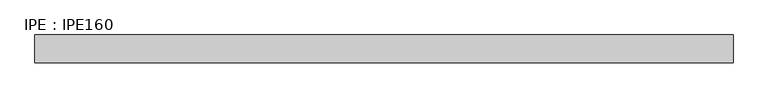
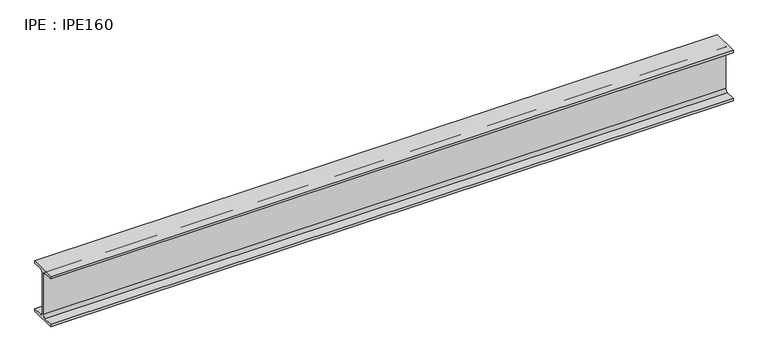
"""IFC4 building model written with IfcOpenShell, lengths in millimetres: beam geometry, IPE : IPE160."""

from ifc_helpers import new_model, si_unit, point, frame, frame_2d, origin, place, context, project, spatial, polyline, circle_curve, trimmed, segment, composite_curve, outline, extrude, source, transform, mapped, element, save


def ipe_ipe160_408854b2(model_context):
    return source(origin(), model_context, "Body", "SweptSolid", [
        extrude(outline(composite_curve([segment(polyline([(41.0, -72.6), (41.0, -80.0), (-41.0, -80.0), (-41.0, -72.6), (-11.5, -72.6)]), True, "CONTINUOUS"), segment(trimmed(circle_curve(frame_2d((-11.5, -63.6)), 9.0), [point((-11.5, -72.6))], [point((-2.5, -63.6))], True, "CARTESIAN"), True, "CONTINUOUS"), segment(polyline([(-2.5, -63.6), (-2.5, 63.6)]), True, "CONTINUOUS"), segment(trimmed(circle_curve(frame_2d((-11.5, 63.6)), 9.0), [point((-2.5, 63.6))], [point((-11.5, 72.6))], True, "CARTESIAN"), True, "CONTINUOUS"), segment(polyline([(-11.5, 72.6), (-41.0, 72.6), (-41.0, 80.0), (41.0, 80.0), (41.0, 72.6), (11.5, 72.6)]), True, "CONTINUOUS"), segment(trimmed(circle_curve(frame_2d((11.5, 63.6)), 9.0), [point((11.5, 72.6))], [point((2.5, 63.6))], True, "CARTESIAN"), True, "CONTINUOUS"), segment(polyline([(2.5, 63.6), (2.5, -63.6)]), True, "CONTINUOUS"), segment(trimmed(circle_curve(frame_2d((11.5, -63.6)), 9.0), [point((2.5, -63.6))], [point((11.5, -72.6))], True, "CARTESIAN"), True, "CONTINUOUS"), segment(polyline([(11.5, -72.6), (41.0, -72.6)]), True, "CONTINUOUS")], self_intersect=False)), frame((-992.05, 0.0, 0.0), z_axis=(1.0, 0.0, 0.0), x_axis=(0.0, 1.0, 0.0)), (0.0, 0.0, 1.0), 2059.2),
    ])


if __name__ == "__main__":
    model = new_model("IFC4")
    model_context = context("Model", 3, world=origin())
    ifc_project = project(units=[si_unit("LENGTHUNIT", "METRE", prefix="MILLI")], contexts=[model_context])
    site = spatial("IfcSite", under=ifc_project)
    building = spatial("IfcBuilding", under=site)
    placement = place(None, origin())
    ipe_ipe160_shape = ipe_ipe160_408854b2(model_context)
    element("IfcBeam", 1, ObjectType="IPE : IPE160", at=placement, inside=building, context=model_context, shape_type="MappedRepresentation", body=[
        mapped(ipe_ipe160_shape, transform((0.0, 0.0, 0.0), x_axis=(1.0, 0.0, 0.0), y_axis=(0.0, 1.0, 0.0), z_axis=(0.0, 0.0, 1.0))),
    ])
    save(model, "model.ifc")
